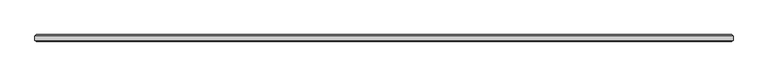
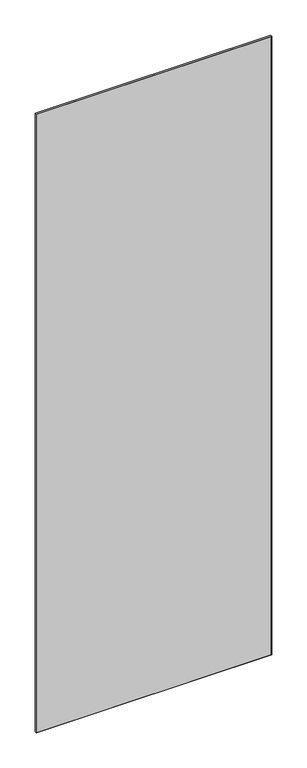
"""IFC4 building model written with IfcOpenShell, lengths in millimetres: plate geometry, 11-AMG-1-Панель одинарный витраж 10-12 : Центр Толщина 10mm."""

from ifc_helpers import new_model, si_unit, origin, place, context, project, spatial, faceted_brep, source, transform, mapped, element, save


def plate_56ee4cc6(model_context):
    return source(origin(), model_context, "Body", "Brep", [
        faceted_brep([(499.1353624, 3.4961653, 2777.6), (-499.1353624, 3.4961653, 2777.6), (-499.1353624, -3.4961653, 2777.6), (499.1353624, -3.4961653, 2777.6), (499.1353624, -3.5039422, 5.0), (-499.1353624, -3.5039422, 5.0), (-499.1353624, 3.4961653, 5.0), (499.1353624, 3.4961653, 5.0), (-497.6315277, -5.0, 2776.0961653), (-497.6315277, -5.0, 6.4960578), (497.6315277, -5.0, 6.4960578), (497.6315277, -5.0, 2776.0961653), (497.6315277, 5.0, 2776.0961653), (497.6315277, 5.0, 6.5038347), (-497.6315277, 5.0, 6.5038347), (-497.6315277, 5.0, 2776.0961653)], [[[0, 1, 2, 3]], [[4, 5, 6, 7]], [[8, 9, 10, 11]], [[1, 6, 5, 2]], [[12, 13, 14, 15]], [[3, 4, 7, 0]], [[3, 11, 10, 4]], [[7, 13, 12, 0]], [[5, 9, 8, 2]], [[1, 15, 14, 6]], [[0, 12, 15, 1]], [[2, 8, 11, 3]], [[6, 14, 13, 7]], [[4, 10, 9, 5]]]),
    ])


if __name__ == "__main__":
    model = new_model("IFC4")
    model_context = context("Model", 3, world=origin())
    ifc_project = project(units=[si_unit("LENGTHUNIT", "METRE", prefix="MILLI")], contexts=[model_context])
    site = spatial("IfcSite", under=ifc_project)
    building = spatial("IfcBuilding", under=site)
    placement = place(None, origin())
    plate_shape = plate_56ee4cc6(model_context)
    element("IfcPlate", 1, ObjectType="11-AMG-1-Панель одинарный витраж 10-12 : Центр Толщина 10mm", at=placement, inside=building, context=model_context, shape_type="MappedRepresentation", body=[
        mapped(plate_shape, transform((0.0, 0.0, 0.0), x_axis=(1.0, 0.0, 0.0), y_axis=(0.0, 1.0, 0.0), z_axis=(0.0, 0.0, 1.0))),
    ])
    save(model, "model.ifc")
